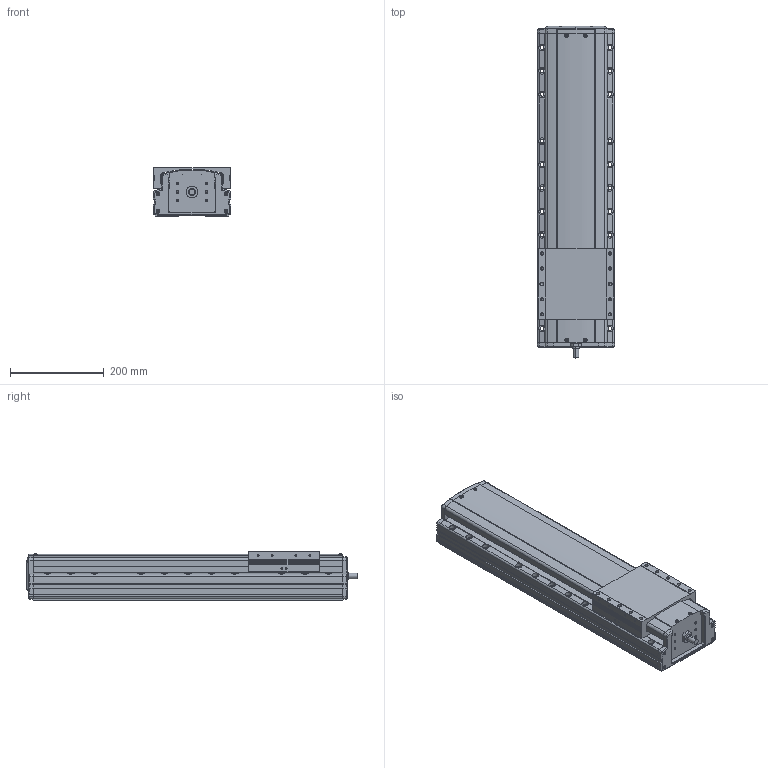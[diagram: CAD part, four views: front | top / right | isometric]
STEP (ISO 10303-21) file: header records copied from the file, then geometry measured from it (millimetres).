
FILE_DESCRIPTION(('STEP AP214'),'1');
FILE_NAME('Z:/Web/3D/PSA165/STP/PSA165-400 (3D)/PSA165ㅁㅁ-400.stp','2014-06-23T11:02:12',(' '),(' '),'Spatial InterOp 3D',' ',' ');
FILE_SCHEMA(('automotive_design'));
Length unit declared in the file: millimetre
Products named in the file (18): 스크루 : Round - M4.0 x 12.0; RRCV-PA160; BASE; 스크루 : Round - M4.0 x 10.0; RN15; Screw 20; SLIDE; FRCV
Bounding box: 165 x 708.8 x 104 mm (x, y, z)
Volume: 9460389.2 mm3; surface area: 653172.9 mm2
Topology: 18 solids, 18 shells, 1895 faces, 5145 edges, 3285 vertices
Faces by surface type: plane 1040, cylinder 613, cone 169, sphere 32, bspline 25, torus 16
Entity records: 77756 total; most frequent: CARTESIAN_POINT 14225, DIRECTION 10053, ORIENTED_EDGE 10038, EDGE_CURVE 5019, LINE 3399, VECTOR 3399, AXIS2_PLACEMENT_3D 3327, VERTEX_POINT 3285
